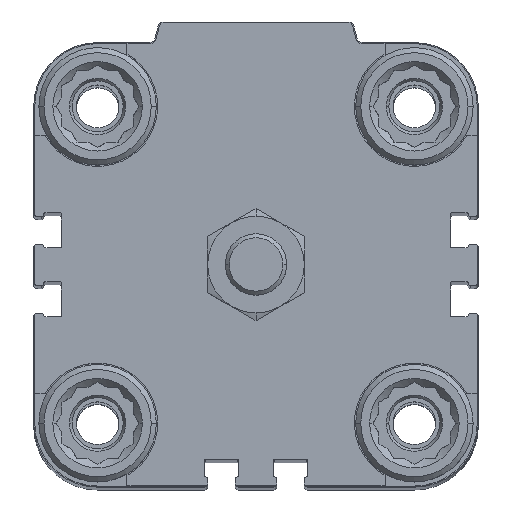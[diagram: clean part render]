
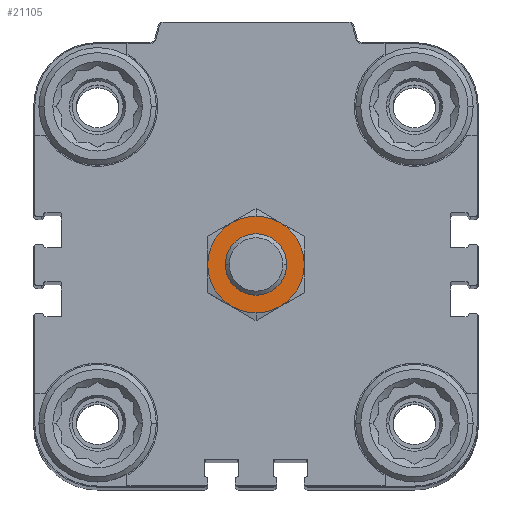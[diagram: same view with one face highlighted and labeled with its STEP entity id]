
A CAD part, top view. The second image highlights one B-rep face of the part: STEP entity #21105.
In plain terms, the highlighted planar face has unit normal (0, 0, 1).
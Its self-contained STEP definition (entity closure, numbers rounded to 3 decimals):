
#1391 = CARTESIAN_POINT ( 'NONE',  ( 0., 9.45, 18.5 ) ) ;
#1447 = FACE_BOUND ( 'NONE', #8890, .T. ) ;
#1676 = DIRECTION ( 'NONE',  ( 0., -1., 0. ) ) ;
#2091 = DIRECTION ( 'NONE',  ( 0., -1., 0. ) ) ;
#2527 = CARTESIAN_POINT ( 'NONE',  ( 0., 6., 18.5 ) ) ;
#2943 = CARTESIAN_POINT ( 'NONE',  ( 0., 0., 18.5 ) ) ;
#3752 = CIRCLE ( 'NONE', #9566, 6. ) ;
#3774 = EDGE_CURVE ( 'NONE', #6462, #16358, #6096, .T. ) ;
#4200 = DIRECTION ( 'NONE',  ( 0., -1., 0. ) ) ;
#6096 = CIRCLE ( 'NONE', #11204, 9.45 ) ;
#6462 = VERTEX_POINT ( 'NONE', #1391 ) ;
#7513 = CIRCLE ( 'NONE', #15732, 6. ) ;
#7742 = CARTESIAN_POINT ( 'NONE',  ( 0., 0., 18.5 ) ) ;
#7882 = ORIENTED_EDGE ( 'NONE', *, *, #18835, .T. ) ;
#7885 = DIRECTION ( 'NONE',  ( 0., -1., 0. ) ) ;
#8404 = ORIENTED_EDGE ( 'NONE', *, *, #12880, .T. ) ;
#8890 = EDGE_LOOP ( 'NONE', ( #8404, #7882 ) ) ;
#9181 = AXIS2_PLACEMENT_3D ( 'NONE', #2943, #14639, #7885 ) ;
#9280 = CARTESIAN_POINT ( 'NONE',  ( 0., -9.45, 18.5 ) ) ;
#9566 = AXIS2_PLACEMENT_3D ( 'NONE', #12701, #16258, #1676 ) ;
#10076 = ORIENTED_EDGE ( 'NONE', *, *, #3774, .F. ) ;
#10291 = EDGE_LOOP ( 'NONE', ( #18154, #10076 ) ) ;
#11204 = AXIS2_PLACEMENT_3D ( 'NONE', #7742, #20730, #4200 ) ;
#12701 = CARTESIAN_POINT ( 'NONE',  ( 0., 0., 18.5 ) ) ;
#12880 = EDGE_CURVE ( 'NONE', #16324, #20462, #3752, .T. ) ;
#14150 = DIRECTION ( 'NONE',  ( 0., -1., 0. ) ) ;
#14580 = DIRECTION ( 'NONE',  ( 0., 0., -1. ) ) ;
#14639 = DIRECTION ( 'NONE',  ( 0., 0., -1. ) ) ;
#14858 = CARTESIAN_POINT ( 'NONE',  ( 0., 0., 18.5 ) ) ;
#15091 = CARTESIAN_POINT ( 'NONE',  ( 0., -6., 18.5 ) ) ;
#15432 = EDGE_CURVE ( 'NONE', #16358, #6462, #21122, .T. ) ;
#15732 = AXIS2_PLACEMENT_3D ( 'NONE', #14858, #18295, #2091 ) ;
#15820 = FACE_OUTER_BOUND ( 'NONE', #10291, .T. ) ;
#16258 = DIRECTION ( 'NONE',  ( 0., 0., -1. ) ) ;
#16324 = VERTEX_POINT ( 'NONE', #2527 ) ;
#16358 = VERTEX_POINT ( 'NONE', #9280 ) ;
#18154 = ORIENTED_EDGE ( 'NONE', *, *, #15432, .F. ) ;
#18295 = DIRECTION ( 'NONE',  ( 0., 0., -1. ) ) ;
#18835 = EDGE_CURVE ( 'NONE', #20462, #16324, #7513, .T. ) ;
#20462 = VERTEX_POINT ( 'NONE', #15091 ) ;
#20730 = DIRECTION ( 'NONE',  ( 0., 0., -1. ) ) ;
#20767 = AXIS2_PLACEMENT_3D ( 'NONE', #20967, #14580, #14150 ) ;
#20872 = PLANE ( 'NONE',  #9181 ) ;
#20967 = CARTESIAN_POINT ( 'NONE',  ( 0., 0., 18.5 ) ) ;
#21105 = ADVANCED_FACE ( 'NONE', ( #15820, #1447 ), #20872, .F. ) ;
#21122 = CIRCLE ( 'NONE', #20767, 9.45 ) ;
